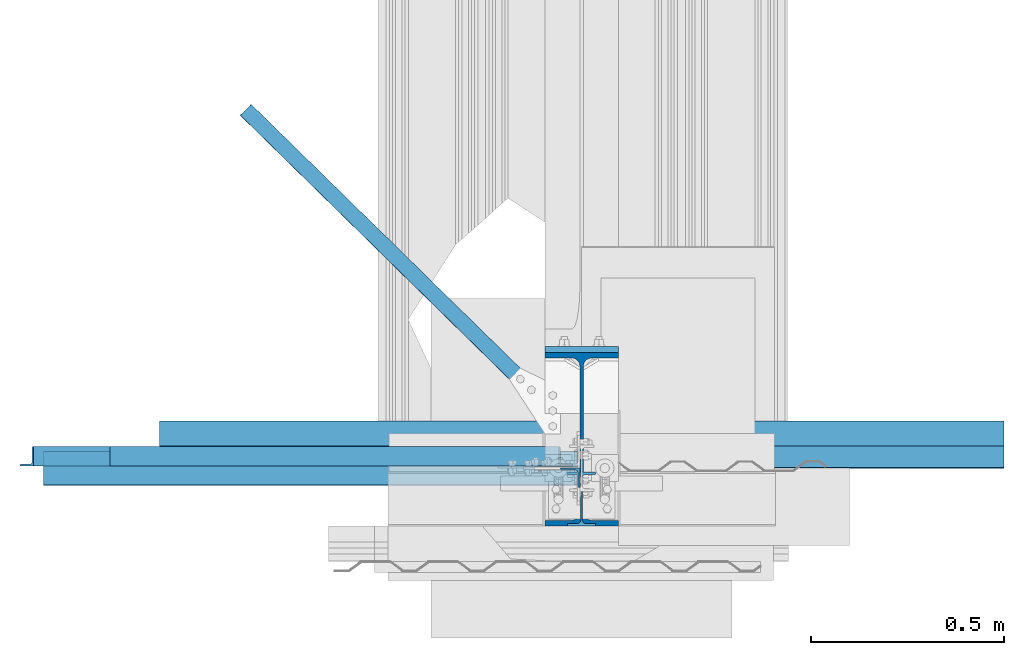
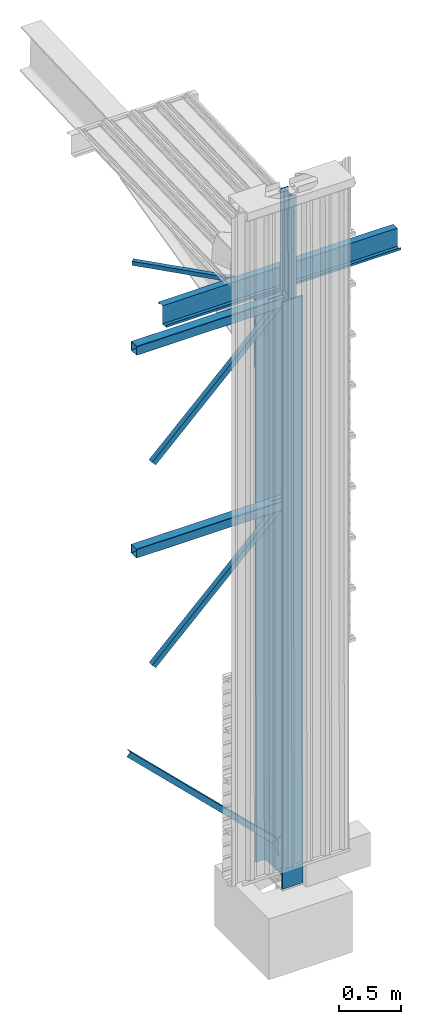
# One storey, part 1 of 21: 7 beams, 4 columns, 3 openings, 3 elements without a shape of their own.
"""IFC2X3 building model written with IfcOpenShell, lengths in millimetres."""

from ifc_helpers import new_model, si_unit, frame, origin_with_axes, origin_2d_with_axis, place, context, project, spatial, polyline, rectangle, hollow_rectangle, i_section, l_section, outline, extrude, clip, halfspace, faceted_brep, material, type_object, element, aggregate, save


model = new_model("IFC2X3")

# Units and contexts
model_context_1 = context("Model", 3, precision=1e-05, world=origin_with_axes(), identifier="Body")
model_context_2 = context("Model", 3, precision=1e-05, world=origin_with_axes())
ifc_project = project(units=[si_unit("LENGTHUNIT", "METRE", prefix="MILLI"), si_unit("AREAUNIT", "SQUARE_METRE"), si_unit("VOLUMEUNIT", "CUBIC_METRE"), si_unit("MASSUNIT", "GRAM", prefix="KILO"), si_unit("TIMEUNIT", "SECOND"), si_unit("PLANEANGLEUNIT", "RADIAN"), si_unit("SOLIDANGLEUNIT", "STERADIAN"), si_unit("THERMODYNAMICTEMPERATUREUNIT", "DEGREE_CELSIUS"), si_unit("LUMINOUSINTENSITYUNIT", "LUMEN")], contexts=[model_context_1, model_context_2])

# Site, building, storey
site_placement = place(None, origin_with_axes())
site = spatial("IfcSite", under=ifc_project, at=site_placement, Name="Undefined", CompositionType="ELEMENT")
building_placement = place(site_placement, origin_with_axes())
building = spatial("IfcBuilding", under=site, at=building_placement, Name="Undefined", CompositionType="ELEMENT")
storey_placement = place(building_placement, origin_with_axes())
storey = spatial("IfcBuildingStorey", under=building, at=storey_placement, Name="Undefined", CompositionType="ELEMENT")

# Assembly, column
assembly_1 = element("IfcElementAssembly", 1, inside=storey, Name="POUTRE", PredefinedType="NOTDEFINED")
ifc_material = material(Name="STEEL/S235JR")
column_type_1 = type_object("IfcColumnType", Name="PL15*190", PredefinedType="NOTDEFINED")
column_1_placement = place(storey_placement, frame((8.7581597e-10, 232.5, 4588.9994), z_axis=(0.0, 0.0, 1.0), x_axis=(1.0, 0.0, 0.0)))
column_1 = element("IfcColumn", 2, at=column_1_placement, type_object=column_type_1, material=ifc_material, Name="TOLE", ObjectType="PL15*190", context=model_context_1, shape_type="SweptSolid", body=[
    extrude(rectangle(XDim=15.0, YDim=190.0, at=origin_2d_with_axis()), frame((1.8391347e-10, 5.4424731e-10, 915.0), z_axis=(1.2908193e-13, -1.8000416e-13, -1.0), x_axis=(0.0, 1.0, 0.0)), (0.0, 0.0, 1.0), 915.0),
])
aggregate(assembly_1, [column_1])

assembly_2 = element("IfcElementAssembly", 3, inside=storey, Name="Baïonnette", PredefinedType="NOTDEFINED")
column_type_2 = type_object("IfcColumnType", Name="IPE140", PredefinedType="NOTDEFINED")
column_2_placement = place(storey_placement, frame((1.0589046e-09, -155.0, 5500.0), z_axis=(0.0, 0.0, 1.0), x_axis=(1.0, 0.0, 0.0)))
column_2 = element("IfcColumn", 4, at=column_2_placement, type_object=column_type_2, material=ifc_material, Name="Baïonnette", ObjectType="IPE140", context=model_context_1, shape_type="Clipping", body=[
    clip(extrude(i_section(OverallWidth=73.0, OverallDepth=140.0, WebThickness=4.6999998, FlangeThickness=6.9000001, FilletRadius=7.0, at=origin_2d_with_axis()), frame((2.0542027e-10, 0.00020440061, 1021.9999), z_axis=(1.2908193e-13, -1.8000416e-13, -1.0), x_axis=(-1.0, 0.0, 4.8148249e-35)), (0.0, 0.0, 1.0), 1021.9999), halfspace(frame((36.5, -70.0, 13.999429), z_axis=(1.2908193e-13, -1.8000416e-13, -1.0), x_axis=(0.0, 1.0, 0.0)), False)),
])
aggregate(assembly_2, [column_2])

assembly_3 = element("IfcElementAssembly", 5, inside=storey, Name="POTEAU", PredefinedType="NOTDEFINED")
column_type_3 = type_object("IfcColumnType", Name="IPE450", PredefinedType="NOTDEFINED")
column_3_placement = place(storey_placement, frame((0.0, 0.0, -300.0), z_axis=(0.0, 0.0, 1.0), x_axis=(1.0, 0.0, 0.0)))
column_3 = element("IfcColumn", 6, at=column_3_placement, type_object=column_type_3, material=ifc_material, Name="POTEAU", ObjectType="IPE450", context=model_context_1, shape_type="SweptSolid", body=[
    extrude(i_section(OverallWidth=190.0, OverallDepth=450.0, WebThickness=9.3999996, FlangeThickness=14.6, FilletRadius=21.0, at=origin_2d_with_axis()), frame((1.1665942e-09, 3.4311594e-09, 5803.9994), z_axis=(1.2908193e-13, -1.8000416e-13, -1.0), x_axis=(-1.0, 0.0, 4.8148249e-35)), (0.0, 0.0, 1.0), 5788.9994),
])
aggregate(assembly_3, [column_3])

# Column
column_type_4 = type_object("IfcColumnType", Name="L50*5", PredefinedType="NOTDEFINED")
column_4_placement = place(storey_placement, frame((-29.7, -99.995207, -54.416822), z_axis=(0.0, 0.0, 1.0), x_axis=(1.0, 0.0, 0.0)))
element("IfcColumn", 7, at=column_4_placement, inside=storey, type_object=column_type_4, material=ifc_material, Name="CV", ObjectType="L50*5", context=model_context_1, shape_type="SweptSolid", body=[
    extrude(l_section(Depth=50.0, Width=50.0, Thickness=5.0, FilletRadius=7.0, EdgeRadius=3.5, at=origin_2d_with_axis()), frame((3.5175418e-11, -0.0055824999, 174.99998), z_axis=(1.2899234e-13, 3.1900003e-05, -1.0), x_axis=(3.4106055e-16, -1.0, -3.1900003e-05)), (0.0, 0.0, 1.0), 174.99998),
])

# Beam, opening
beam_type_1 = type_object("IfcBeamType", Name="TUBE-C-90*90*3", PredefinedType="NOTDEFINED")
beam_1_placement = place(storey_placement, frame((-9.7300786e-06, -74.999999, 3413.9994), z_axis=(0.0, 1.0, 0.0), x_axis=(-1.0, 0.0, 4.8148249e-35)))
beam_1 = element("IfcBeam", 8, at=beam_1_placement, inside=storey, type_object=beam_type_1, material=ifc_material, Name="buton", ObjectType="TUBE-C-90*90*3", context=model_context_1, shape_type="Clipping", body=[
    clip(clip(extrude(hollow_rectangle(XDim=90.0, YDim=90.0, WallThickness=3.0, InnerFilletRadius=3.0, OuterFilletRadius=6.0, at=origin_2d_with_axis()), frame((1395.0, 0.0, 2.0912771e-30), z_axis=(-1.0, 0.0, 4.8148249e-35), x_axis=(0.0, -1.0, 0.0)), (0.0, 0.0, 1.0), 1395.0), halfspace(frame((10.7, 45.0, -45.0), z_axis=(-1.0, 0.0, 4.8148249e-35), x_axis=(0.0, 0.0, 1.0)), False)), halfspace(frame((10.7, 45.0, -45.0), z_axis=(-1.0, 0.0, 4.8148249e-35), x_axis=(0.0, 0.0, 1.0)), False)),
])
opening_1_placement = place(storey_placement, frame((-9.7300786e-06, -74.999999, 3413.9994), z_axis=(0.0, 1.0, 0.0), x_axis=(-1.0, 0.0, 4.8148249e-35)))
element("IfcOpeningElement", 9, at=opening_1_placement, cuts=beam_1, ObjectType="Recess", context=model_context_1, shape_type="Brep", body=[
    faceted_brep([(122.78191, -117.84401, 3.0), (87.868575, -153.63588, 3.0), (87.868575, -153.63588, -5.0), (122.78191, -117.84401, -5.0), (122.78191, 55.0, 3.0), (122.78191, 55.0, -5.0), (10.7, 55.0, 3.0), (10.7, -153.63588, 3.0), (10.7, -153.63588, -5.0), (10.7, 55.0, -5.0)], [[[0, 1, 2, 3]], [[4, 0, 3, 5]], [[1, 0, 4, 6, 7]], [[2, 1, 7, 8]], [[5, 3, 2, 8, 9]], [[4, 5, 9, 6]], [[8, 7, 6, 9]]]),
])

# Beam, openings
beam_2_placement = place(storey_placement, frame((-9.7282018e-06, -74.999999, 5413.9994), z_axis=(0.0, 1.0, 0.0), x_axis=(-1.0, 0.0, 4.8148249e-35)))
beam_2 = element("IfcBeam", 10, at=beam_2_placement, inside=storey, type_object=beam_type_1, material=ifc_material, Name="buton", ObjectType="TUBE-C-90*90*3", context=model_context_1, shape_type="Clipping", body=[
    clip(extrude(hollow_rectangle(XDim=90.0, YDim=90.0, WallThickness=3.0, InnerFilletRadius=3.0, OuterFilletRadius=6.0, at=origin_2d_with_axis()), frame((1395.0, 0.0, 2.0912771e-30), z_axis=(-1.0, 0.0, 4.8148249e-35), x_axis=(0.0, -1.0, 0.0)), (0.0, 0.0, 1.0), 1395.0), halfspace(frame((10.7, 45.0, -45.0), z_axis=(-1.0, 0.0, 4.8148249e-35), x_axis=(0.0, 0.0, 1.0)), False)),
])
opening_2_placement = place(storey_placement, frame((-9.7282018e-06, -74.999999, 5413.9994), z_axis=(0.0, 1.0, 0.0), x_axis=(-1.0, 0.0, 4.8148249e-35)))
element("IfcOpeningElement", 11, at=opening_2_placement, cuts=beam_2, ObjectType="Recess", context=model_context_1, shape_type="Brep", body=[
    faceted_brep([(122.78191, -117.84401, 3.0), (87.868575, -153.63588, 3.0), (87.868575, -153.63588, -5.0), (122.78191, -117.84401, -5.0), (151.41865, 55.0, 3.0), (151.41865, 55.0, -5.0), (10.7, 55.0, 3.0), (10.7, -153.63588, 3.0), (10.7, -153.63588, -5.0), (10.7, 55.0, -5.0)], [[[0, 1, 2, 3]], [[4, 0, 3, 5]], [[1, 0, 4, 6, 7]], [[2, 1, 7, 8]], [[5, 3, 2, 8, 9]], [[4, 5, 9, 6]], [[8, 7, 6, 9]]]),
])
opening_3_placement = place(storey_placement, frame((-9.7282018e-06, -74.999999, 5413.9994), z_axis=(0.0, 1.0, 0.0), x_axis=(-1.0, 0.0, 4.8148249e-35)))
element("IfcOpeningElement", 12, at=opening_3_placement, cuts=beam_2, ObjectType="Recess", context=model_context_1, shape_type="Brep", body=[
    faceted_brep([(122.78191, -117.84401, 3.0), (87.868575, -153.63588, 3.0), (87.868575, -153.63588, -5.0), (122.78191, -117.84401, -5.0), (151.41865, 55.0, 3.0), (151.41865, 55.0, -5.0), (10.7, 55.0, 3.0), (10.7, -153.63588, 3.0), (10.7, -153.63588, -5.0), (10.7, 55.0, -5.0)], [[[0, 1, 2, 3]], [[4, 0, 3, 5]], [[1, 0, 4, 6, 7]], [[2, 1, 7, 8]], [[5, 3, 2, 8, 9]], [[4, 5, 9, 6]], [[8, 7, 6, 9]]]),
])

# Beams
beam_type_2 = type_object("IfcBeamType", Name="L50*5", PredefinedType="NOTDEFINED")
beam_3_placement = place(storey_placement, frame((-9.7300699e-06, -43.999999, 3380.9994), z_axis=(0.0, 1.0, 0.0), x_axis=(-0.71583755, -2.6949672e-13, -0.69826685)))
element("IfcBeam", 13, at=beam_3_placement, inside=storey, type_object=beam_type_2, material=ifc_material, Name="CV", ObjectType="L50*5", context=model_context_1, shape_type="Clipping", body=[
    clip(clip(extrude(l_section(Depth=50.0, Width=50.0, Thickness=5.0, FilletRadius=7.0, EdgeRadius=3.5, at=origin_2d_with_axis()), frame((1683.3081, 0.0, 0.0), z_axis=(-1.0, 0.0, 4.8148249e-35), x_axis=(0.0, -1.0, 0.0)), (0.0, 0.0, 1.0), 1683.3081), halfspace(frame((57.135662, 25.0, -25.0), z_axis=(-1.0, 0.0, 4.8148249e-35), x_axis=(0.0, 0.0, 1.0)), False)), halfspace(frame((57.135662, 25.0, -28.0), z_axis=(-1.0, 0.0, 4.8148249e-35), x_axis=(0.0, 0.0, 1.0)), False)),
])
beam_4_placement = place(storey_placement, frame((9.7291951e-06, -43.999999, 15.999412), z_axis=(0.0, 1.0, 0.0), x_axis=(-0.71583755, 4.1698309e-13, 0.69826685)))
element("IfcBeam", 14, at=beam_4_placement, inside=storey, type_object=beam_type_2, material=ifc_material, Name="CV", ObjectType="L50*5", context=model_context_1, shape_type="Clipping", body=[
    clip(extrude(l_section(Depth=50.0, Width=50.0, Thickness=5.0, FilletRadius=7.0, EdgeRadius=3.5, at=origin_2d_with_axis()), frame((2009.8781, 1.7763568e-15, 1.0147291e-25), z_axis=(-1.0, 0.0, 4.8148249e-35), x_axis=(0.0, -1.0, 0.0)), (0.0, 0.0, 1.0), 2009.8781), halfspace(frame((107.78518, 25.0, -25.0), z_axis=(-1.0, 5.6843423e-16, 2.2204956e-05), x_axis=(2.2204956e-05, -6.9608712e-09, 1.0)), False)),
])
beam_5_placement = place(storey_placement, frame((-9.7282075e-06, -43.999999, 5380.9994), z_axis=(0.0, 1.0, 0.0), x_axis=(-0.71583755, -2.6949672e-13, -0.69826685)))
element("IfcBeam", 15, at=beam_5_placement, inside=storey, type_object=beam_type_2, material=ifc_material, Name="CV", ObjectType="L50*5", context=model_context_1, shape_type="Clipping", body=[
    clip(extrude(l_section(Depth=50.0, Width=50.0, Thickness=5.0, FilletRadius=7.0, EdgeRadius=3.5, at=origin_2d_with_axis()), frame((1683.3081, 0.0, 0.0), z_axis=(-1.0, 0.0, 4.8148249e-35), x_axis=(0.0, -1.0, 0.0)), (0.0, 0.0, 1.0), 1683.3081), halfspace(frame((57.135662, 25.0, -25.0), z_axis=(-1.0, 0.0, 4.8148249e-35), x_axis=(0.0, 0.0, 1.0)), False)),
])
beam_type_3 = type_object("IfcBeamType", Name="Z.180.150.65", PredefinedType="NOTDEFINED")
beam_6_placement = place(storey_placement, frame((-1095.0, -16.748917, 5603.9986), z_axis=(0.0, 0.0, 1.0), x_axis=(1.0, 0.0, 0.0)))
element("IfcBeam", 16, at=beam_6_placement, inside=storey, type_object=beam_type_3, material=ifc_material, Name="POUTRE", ObjectType="Z.180.150.65", context=model_context_1, shape_type="SweptSolid", body=[
    extrude(outline(polyline([(58.75, -90.0), (58.75, -67.5), (57.25, -67.5), (57.25, -88.5), (0.75, -88.5), (0.75, 90.0), (-64.25, 90.0), (-64.25, 67.5), (-62.75, 67.5), (-62.75, 88.5), (-0.75, 88.5), (-0.75, -90.0), (58.75, -90.0)])), frame((2190.0, 2.5824151e-29, 0.0), z_axis=(-1.0, 0.0, 4.8148249e-35), x_axis=(0.0, -1.0, 0.0)), (0.0, 0.0, 1.0), 2190.0),
])
beam_type_4 = type_object("IfcBeamType", Name="L40*4", PredefinedType="NOTDEFINED")
beam_7_placement = place(storey_placement, frame((-871.2894, 854.10661, 5519.6237), z_axis=(-0.026258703, 0.010233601, -0.9996028), x_axis=(0.71374636, -0.69992466, -0.025915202)))
element("IfcBeam", 17, at=beam_7_placement, inside=storey, type_object=beam_type_4, material=ifc_material, Name="diag", ObjectType="L40*4", context=model_context_1, shape_type="Clipping", body=[
    clip(extrude(l_section(Depth=40.0, Width=40.0, Thickness=4.0, FilletRadius=6.0, EdgeRadius=3.0, at=origin_2d_with_axis()), frame((1219.9911, -1.6095343e-13, 9.094947e-13), z_axis=(-1.0, 0.0, 4.8148249e-35), x_axis=(0.0, -1.0, 0.0)), (0.0, 0.0, 1.0), 1219.9911), halfspace(frame((1057.5153, -20.084312, -12.399278), z_axis=(0.99966415, 0.000287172, -0.025913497), x_axis=(0.025913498, -8.8414071e-07, 0.99966419)), False)),
])

save(model, "model.ifc")
